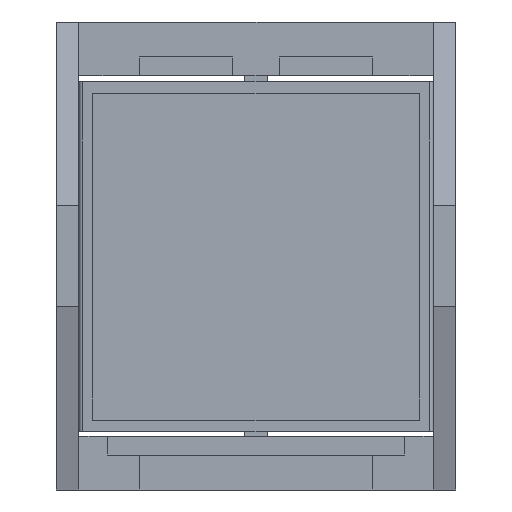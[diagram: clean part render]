
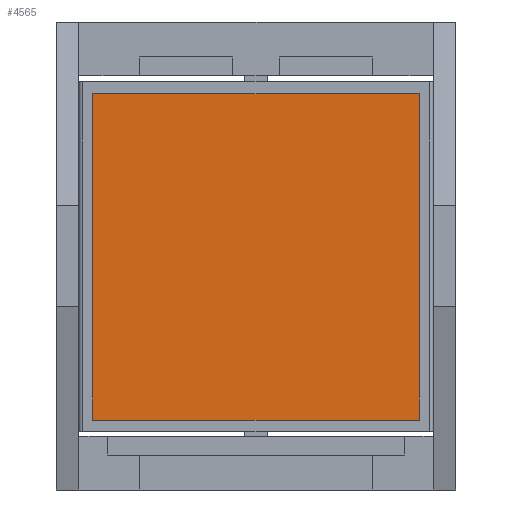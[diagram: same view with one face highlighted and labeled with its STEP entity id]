
A CAD part, front view. The second image highlights one B-rep face of the part: STEP entity #4565.
In plain terms, the highlighted planar face has unit normal (0, -1, 0).
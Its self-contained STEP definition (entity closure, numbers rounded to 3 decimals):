
#66 = VERTEX_POINT ( 'NONE', #6389 ) ;
#119 = CARTESIAN_POINT ( 'NONE',  ( -11.919, -3.447, -7.477 ) ) ;
#645 = LINE ( 'NONE', #2926, #2088 ) ;
#742 = ORIENTED_EDGE ( 'NONE', *, *, #4387, .F. ) ;
#1054 = CARTESIAN_POINT ( 'NONE',  ( 9.081, -3.447, -7.477 ) ) ;
#1284 = ORIENTED_EDGE ( 'NONE', *, *, #5691, .F. ) ;
#1389 = DIRECTION ( 'NONE',  ( 0., 0., 1. ) ) ;
#1497 = DIRECTION ( 'NONE',  ( 0., 1., 0. ) ) ;
#1722 = LINE ( 'NONE', #2945, #6653 ) ;
#1788 = LINE ( 'NONE', #119, #3013 ) ;
#2088 = VECTOR ( 'NONE', #5151, 1000. ) ;
#2152 = VERTEX_POINT ( 'NONE', #6007 ) ;
#2202 = DIRECTION ( 'NONE',  ( 1., 0., 0. ) ) ;
#2239 = CARTESIAN_POINT ( 'NONE',  ( -11.919, -3.447, 13.523 ) ) ;
#2426 = VERTEX_POINT ( 'NONE', #1054 ) ;
#2663 = FACE_OUTER_BOUND ( 'NONE', #4909, .T. ) ;
#2784 = LINE ( 'NONE', #2239, #4831 ) ;
#2926 = CARTESIAN_POINT ( 'NONE',  ( -11.919, -3.447, -7.477 ) ) ;
#2945 = CARTESIAN_POINT ( 'NONE',  ( 9.081, -3.447, -7.477 ) ) ;
#3013 = VECTOR ( 'NONE', #1389, 1000. ) ;
#3161 = EDGE_CURVE ( 'NONE', #6624, #66, #1788, .T. ) ;
#3183 = AXIS2_PLACEMENT_3D ( 'NONE', #3816, #1497, #6056 ) ;
#3208 = ORIENTED_EDGE ( 'NONE', *, *, #3661, .F. ) ;
#3384 = DIRECTION ( 'NONE',  ( 0., 0., -1. ) ) ;
#3661 = EDGE_CURVE ( 'NONE', #2426, #6624, #645, .T. ) ;
#3792 = PLANE ( 'NONE',  #3183 ) ;
#3816 = CARTESIAN_POINT ( 'NONE',  ( -11.919, -3.447, 13.523 ) ) ;
#4309 = ORIENTED_EDGE ( 'NONE', *, *, #3161, .F. ) ;
#4387 = EDGE_CURVE ( 'NONE', #66, #2152, #2784, .T. ) ;
#4565 = ADVANCED_FACE ( 'NONE', ( #2663 ), #3792, .F. ) ;
#4831 = VECTOR ( 'NONE', #2202, 1000. ) ;
#4909 = EDGE_LOOP ( 'NONE', ( #4309, #3208, #1284, #742 ) ) ;
#5151 = DIRECTION ( 'NONE',  ( -1., 0., 0. ) ) ;
#5393 = CARTESIAN_POINT ( 'NONE',  ( -11.919, -3.447, -7.477 ) ) ;
#5691 = EDGE_CURVE ( 'NONE', #2152, #2426, #1722, .T. ) ;
#6007 = CARTESIAN_POINT ( 'NONE',  ( 9.081, -3.447, 13.523 ) ) ;
#6056 = DIRECTION ( 'NONE',  ( 0., 0., 1. ) ) ;
#6389 = CARTESIAN_POINT ( 'NONE',  ( -11.919, -3.447, 13.523 ) ) ;
#6624 = VERTEX_POINT ( 'NONE', #5393 ) ;
#6653 = VECTOR ( 'NONE', #3384, 1000. ) ;
